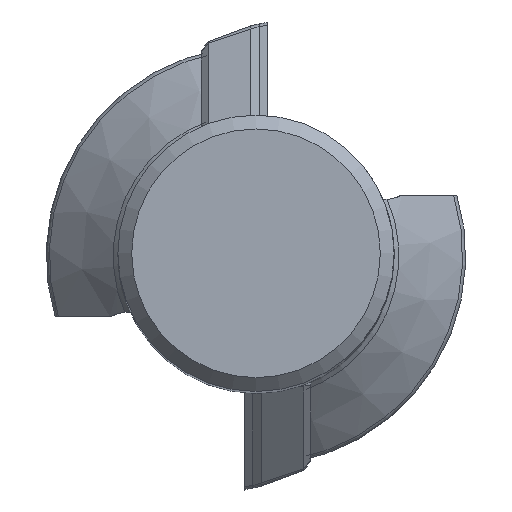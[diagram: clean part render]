
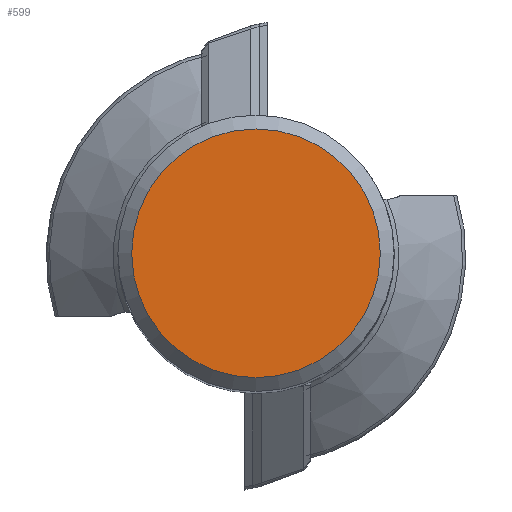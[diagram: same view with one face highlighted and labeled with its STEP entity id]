
A CAD part, top view. The second image highlights one B-rep face of the part: STEP entity #599.
In plain terms, the highlighted planar face has unit normal (0, 0, 1).
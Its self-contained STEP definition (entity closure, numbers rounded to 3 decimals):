
#216=FACE_OUTER_BOUND('',#733,.T.);
#285=PLANE('',#1698);
#599=ADVANCED_FACE('',(#216),#285,.F.);
#733=EDGE_LOOP('',(#992));
#992=ORIENTED_EDGE('',*,*,#1479,.T.);
#1308=VERTEX_POINT('',#2631);
#1479=EDGE_CURVE('',#1308,#1308,#1610,.T.);
#1610=CIRCLE('',#1697,9.);
#1697=AXIS2_PLACEMENT_3D('',#2630,#1947,#1948);
#1698=AXIS2_PLACEMENT_3D('',#2632,#1949,#1950);
#1947=DIRECTION('',(0.,0.,1.));
#1948=DIRECTION('',(-1.,0.,0.));
#1949=DIRECTION('',(0.,0.,-1.));
#1950=DIRECTION('',(1.,0.,0.));
#2630=CARTESIAN_POINT('',(0.,0.,120.));
#2631=CARTESIAN_POINT('',(-9.,0.,120.));
#2632=CARTESIAN_POINT('',(0.,10.,120.));
